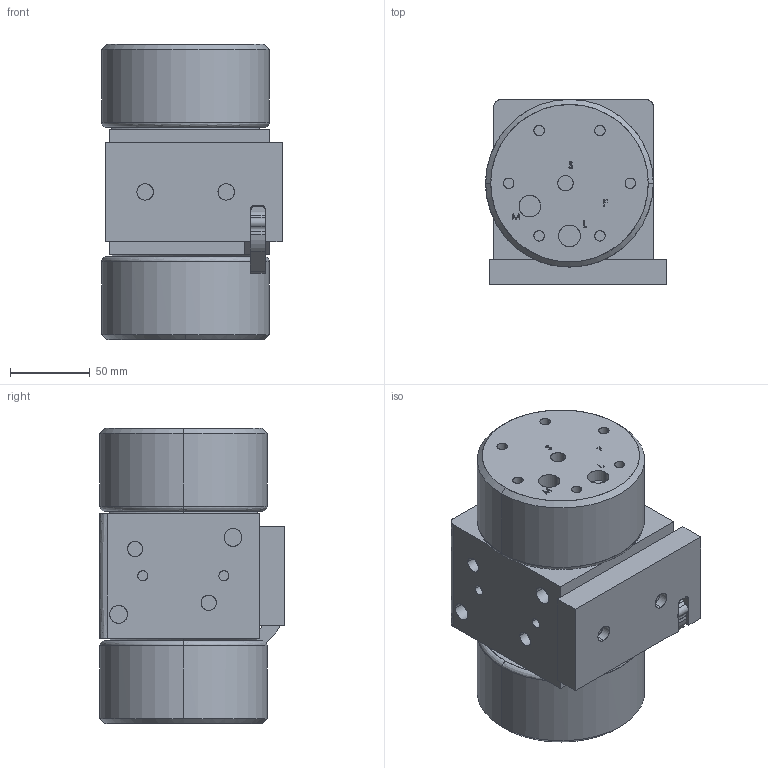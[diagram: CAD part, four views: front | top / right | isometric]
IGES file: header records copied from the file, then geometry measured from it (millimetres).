
Start section: SolidWorks IGES file using analytic representation for surfaces
Global section: file name: S:\Product Visuals\FILES FOR PUBLICATION\SOLID MODELS FOR PUBLICATION\psa030\psa030-no-shuttle\psa030-no-shuttle.IGS; native system: SolidWorks 2012; preprocessor: SolidWorks 2012; author: karen.bodily; date: 121121.141838; units: inch
Bounding box: 113.22 x 115.87 x 185.09 mm (x, y, z)
Surface area: 129813 mm2 (no closed solid volume)
Topology: 0 solids, 0 shells, 726 faces, 8324 edges, 8324 vertices
Faces by surface type: bspline 573, revolution 153
